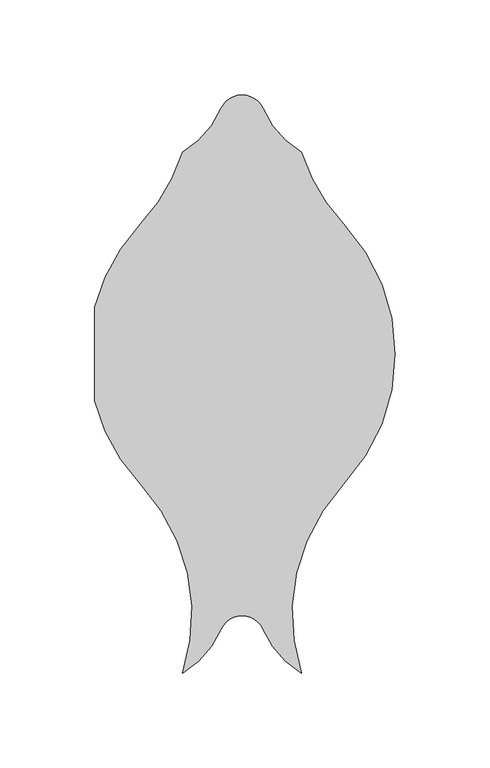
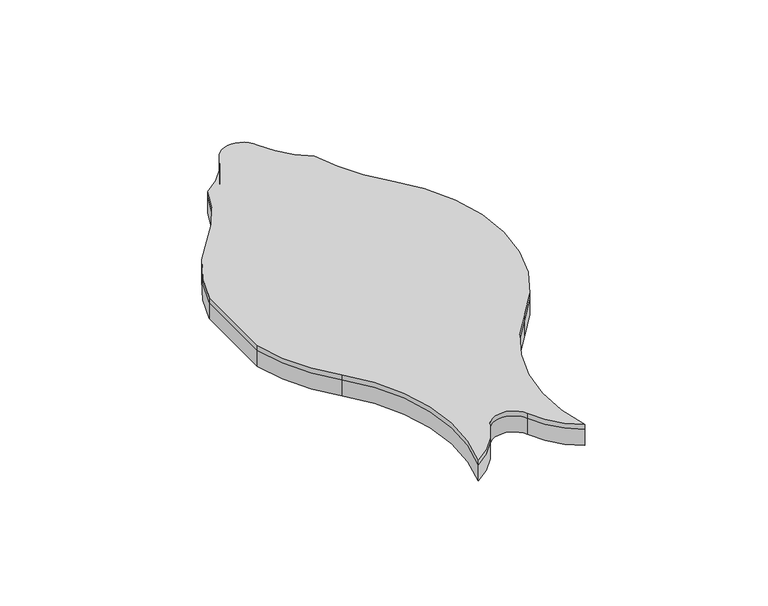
"""IFC4 building model written with IfcOpenShell, lengths in millimetres: proxy geometry, FilzFelt_Fish_Block : Fish Block."""

from ifc_helpers import new_model, si_unit, frame, origin, place, context, project, spatial, polyline, circle_curve, source, transform, mapped, element, save
from ifc_brep_helpers import plane_surface, cylinder_surface, revolved_surface, advanced_brep


def specialty_equipment_b1607f59(model_context):
    return source(origin(), model_context, "Body", "AdvancedBrep", [
        advanced_brep(
        [(53.5486457, 68.6120133, 10.0210937), (53.5486457, -68.6120133, 10.0210937), (31.2619065, -168.1141956, 10.0210937), (11.0103348, -145.0347036, 10.0210937), (-11.0103348, -145.0347036, 10.0210937), (-31.2619065, -168.1141956, 10.0210937), (-53.5486457, -68.6120133, 10.0210937), (-77.6593049, -24.5571251, 10.0210937), (-77.6593049, 24.5571251, 10.0210937), (-53.5486457, 68.6120133, 10.0210937), (-31.2619065, 106.3338576, 10.0210937), (-11.0103348, 129.4133496, 10.0210937), (11.0103348, 129.4133496, 10.0210937), (31.2619065, 106.3338576, 10.0210937), (53.5486457, 68.6120133, 12.9976563), (31.2619065, 106.3338576, 12.9976563), (11.0103348, 129.4133496, 12.9976563), (0.0, 136.5838795, 12.9976563), (-11.0103348, 129.4133496, 12.9976563), (-31.2619065, 106.3338576, 12.9976563), (-53.5486457, 68.6120133, 12.9976563), (-77.6593049, 24.5571251, 12.9976563), (-77.6593049, -24.5571251, 12.9976563), (-53.5486457, -68.6120133, 12.9976563), (-31.2619065, -168.1141956, 12.9976563), (-11.0103348, -145.0347036, 12.9976563), (11.0103348, -145.0347036, 12.9976563), (31.2619065, -168.1141956, 12.9976563), (53.5486457, -68.6120133, 12.9976563), (80.7142226, 0.0, 12.9976563)],
        [
            (0, 1, circle_curve(frame((-19.5151403, 0.0, 10.0210937), z_axis=(0.0, 0.0, -1.0), x_axis=(-1.0, 0.0, 0.0)), 100.2293629)),
            (1, 2, circle_curve(frame((126.6124317, -137.2240266, 10.0210937), z_axis=(0.0, 0.0, 1.0), x_axis=(-1.0, 0.0, 0.0)), 100.2293629)),
            (2, 3, circle_curve(frame((57.9263497, -124.2921115, 10.0210937), z_axis=(0.0, 0.0, -1.0), x_axis=(-1.0, 0.0, 0.0)), 51.2968574)),
            (3, 4, circle_curve(frame((0.0, -149.9026124, 10.0210937), z_axis=(0.0, 0.0, 1.0), x_axis=(-1.0, 0.0, 0.0)), 12.0384388)),
            (4, 5, circle_curve(frame((-57.9263497, -124.2921115, 10.0210937), z_axis=(0.0, 0.0, -1.0), x_axis=(-1.0, 0.0, 0.0)), 51.2968574)),
            (5, 6, circle_curve(frame((-126.6124317, -137.2240266, 10.0210937), z_axis=(0.0, 0.0, 1.0), x_axis=(-1.0, 0.0, 0.0)), 100.2293629)),
            (6, 7, circle_curve(frame((19.5151403, 0.0, 10.0210937), z_axis=(0.0, 0.0, -1.0), x_axis=(-1.0, 0.0, 0.0)), 100.2293629)),
            (7, 8),
            (8, 9, circle_curve(frame((19.5151403, 0.0, 10.0210937), z_axis=(0.0, 0.0, -1.0), x_axis=(-1.0, 0.0, 0.0)), 100.2293629)),
            (9, 10, circle_curve(frame((-126.6124317, 137.2240266, 10.0210937), z_axis=(0.0, 0.0, 1.0), x_axis=(-1.0, 0.0, 0.0)), 100.2293629)),
            (10, 11, circle_curve(frame((-57.9263497, 150.1559416, 10.0210937), z_axis=(0.0, 0.0, 1.0), x_axis=(-1.0, 0.0, 0.0)), 51.2968574)),
            (11, 12, circle_curve(frame((0.0, 124.5454408, 10.0210937), z_axis=(0.0, 0.0, -1.0), x_axis=(-1.0, 0.0, 0.0)), 12.0384388)),
            (12, 13, circle_curve(frame((57.9263497, 150.1559416, 10.0210937), z_axis=(0.0, 0.0, 1.0), x_axis=(-1.0, 0.0, 0.0)), 51.2968574)),
            (13, 0, circle_curve(frame((126.6124317, 137.2240266, 10.0210937), z_axis=(0.0, 0.0, 1.0), x_axis=(-1.0, 0.0, 0.0)), 100.2293629)),
            (14, 15, circle_curve(frame((126.6124317, 137.2240266, 12.9976563), z_axis=(0.0, 0.0, -1.0), x_axis=(-1.0, 0.0, 0.0)), 100.2293629)),
            (15, 16, circle_curve(frame((57.9263497, 150.1559416, 12.9976563), z_axis=(0.0, 0.0, -1.0), x_axis=(-1.0, 0.0, 0.0)), 51.2968574)),
            (16, 17, circle_curve(frame((0.0, 124.5454408, 12.9976563), z_axis=(0.0, 0.0, 1.0), x_axis=(-1.0, 0.0, 0.0)), 12.0384388)),
            (17, 18, circle_curve(frame((0.0, 124.5454408, 12.9976563), z_axis=(0.0, 0.0, 1.0), x_axis=(-1.0, 0.0, 0.0)), 12.0384388)),
            (18, 19, circle_curve(frame((-57.9263497, 150.1559416, 12.9976563), z_axis=(0.0, 0.0, -1.0), x_axis=(-1.0, 0.0, 0.0)), 51.2968574)),
            (19, 20, circle_curve(frame((-126.6124317, 137.2240266, 12.9976563), z_axis=(0.0, 0.0, -1.0), x_axis=(-1.0, 0.0, 0.0)), 100.2293629)),
            (20, 21, circle_curve(frame((19.5151403, 0.0, 12.9976563), z_axis=(0.0, 0.0, 1.0), x_axis=(-1.0, 0.0, 0.0)), 100.2293629)),
            (21, 22),
            (22, 23, circle_curve(frame((19.5151403, 0.0, 12.9976563), z_axis=(0.0, 0.0, 1.0), x_axis=(-1.0, 0.0, 0.0)), 100.2293629)),
            (23, 24, circle_curve(frame((-126.6124317, -137.2240266, 12.9976563), z_axis=(0.0, 0.0, -1.0), x_axis=(-1.0, 0.0, 0.0)), 100.2293629)),
            (24, 25, circle_curve(frame((-57.9263497, -124.2921115, 12.9976563), z_axis=(0.0, 0.0, 1.0), x_axis=(-1.0, 0.0, 0.0)), 51.2968574)),
            (25, 26, circle_curve(frame((0.0, -149.9026124, 12.9976563), z_axis=(0.0, 0.0, -1.0), x_axis=(-1.0, 0.0, 0.0)), 12.0384388)),
            (26, 27, circle_curve(frame((57.9263497, -124.2921115, 12.9976563), z_axis=(0.0, 0.0, 1.0), x_axis=(-1.0, 0.0, 0.0)), 51.2968574)),
            (27, 28, circle_curve(frame((126.6124317, -137.2240266, 12.9976563), z_axis=(0.0, 0.0, -1.0), x_axis=(-1.0, 0.0, 0.0)), 100.2293629)),
            (28, 29, circle_curve(frame((-19.5151403, 0.0, 12.9976563), z_axis=(0.0, 0.0, 1.0), x_axis=(-1.0, 0.0, 0.0)), 100.2293629)),
            (29, 14, circle_curve(frame((-19.5151403, 0.0, 12.9976563), z_axis=(0.0, 0.0, 1.0), x_axis=(-1.0, 0.0, 0.0)), 100.2293629)),
            (0, 14),
            (28, 1),
            (27, 2),
            (26, 3),
            (25, 4),
            (24, 5),
            (23, 6),
            (22, 7),
            (20, 9),
            (8, 21),
            (19, 10),
            (18, 11),
            (16, 12),
            (15, 13),
        ],
        [
            plane_surface(frame((0.0, 0.0, 10.0210937), z_axis=(0.0, 0.0, -1.0), x_axis=(0.0, -1.0, 0.0))),
            plane_surface(frame((0.0, 0.0, 12.9976563), z_axis=(0.0, 0.0, 1.0), x_axis=(0.0, -1.0, 0.0))),
            cylinder_surface(frame((-19.5151403, 0.0, 10.0210937), z_axis=(0.0, 0.0, -1.0), x_axis=(-1.0, 0.0, 0.0)), 100.2293629),
            revolved_surface(polyline([(26.383068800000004, -137.2240266, 12.9976563), (26.383068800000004, -137.2240266, 10.0210937)]), (126.6124317, -137.2240266, 10.0210937), (0.0, 0.0, 1.0)),
            cylinder_surface(frame((57.9263497, -124.2921115, 10.0210937), z_axis=(0.0, 0.0, -1.0), x_axis=(-1.0, 0.0, 0.0)), 51.2968574),
            revolved_surface(polyline([(-12.0384388, -149.9026124, 12.9976563), (-12.0384388, -149.9026124, 10.0210937)]), (0.0, -149.9026124, 10.0210937), (0.0, 0.0, 1.0)),
            cylinder_surface(frame((-57.9263497, -124.2921115, 10.0210937), z_axis=(0.0, 0.0, -1.0), x_axis=(-1.0, 0.0, 0.0)), 51.2968574),
            revolved_surface(polyline([(-226.84179460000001, -137.2240266, 12.9976563), (-226.84179460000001, -137.2240266, 10.0210937)]), (-126.6124317, -137.2240266, 10.0210937), (0.0, 0.0, 1.0)),
            cylinder_surface(frame((19.5151403, 0.0, 10.0210937), z_axis=(0.0, 0.0, -1.0), x_axis=(-1.0, 0.0, 0.0)), 100.2293629),
            revolved_surface(polyline([(-226.84179460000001, 137.2240266, 12.9976563), (-226.84179460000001, 137.2240266, 10.0210937)]), (-126.6124317, 137.2240266, 10.0210937), (0.0, 0.0, 1.0)),
            revolved_surface(polyline([(-109.2232071, 150.1559416, 12.9976563), (-109.2232071, 150.1559416, 10.0210937)]), (-57.9263497, 150.1559416, 10.0210937), (0.0, 0.0, 1.0)),
            cylinder_surface(frame((0.0, 124.5454408, 10.0210937), z_axis=(0.0, 0.0, -1.0), x_axis=(-1.0, 0.0, 0.0)), 12.0384388),
            revolved_surface(polyline([(6.629492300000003, 150.1559416, 12.9976563), (6.629492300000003, 150.1559416, 10.0210937)]), (57.9263497, 150.1559416, 10.0210937), (0.0, 0.0, 1.0)),
            revolved_surface(polyline([(26.383068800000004, 137.2240266, 12.9976563), (26.383068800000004, 137.2240266, 10.0210937)]), (126.6124317, 137.2240266, 10.0210937), (0.0, 0.0, 1.0)),
            plane_surface(frame((-77.6593049, 168.3338795, 12.9976562), z_axis=(-1.0, 0.0, 0.0), x_axis=(0.0, -1.0, 0.0))),
        ],
        [
            (0, [[1, 2, 3, 4, 5, 6, 7, 8, 9, 10, 11, 12, 13, 14]]),
            (1, [[15, 16, 17, 18, 19, 20, 21, 22, 23, 24, 25, 26, 27, 28, 29, 30]]),
            (2, [[-1, 31, -30, -29, 32]]),
            (3, [[-2, -32, -28, 33]]),
            (4, [[-3, -33, -27, 34]]),
            (5, [[-4, -34, -26, 35]]),
            (6, [[-5, -35, -25, 36]]),
            (7, [[-6, -36, -24, 37]]),
            (8, [[-37, -23, 38, -7]]),
            (8, [[39, -9, 40, -21]]),
            (9, [[-10, -39, -20, 41]]),
            (10, [[-11, -41, -19, 42]]),
            (11, [[-12, -42, -18, -17, 43]]),
            (12, [[-13, -43, -16, 44]]),
            (13, [[-14, -44, -15, -31]]),
            (14, [[-8, -38, -22, -40]]),
        ],
    ),
        advanced_brep(
        [(31.2619065, -168.1141956, 0.0), (11.0103348, -145.0347036, 0.0), (-11.0103348, -145.0347036, 0.0), (-31.2619065, -168.1141956, 0.0), (-53.5486457, -68.6120133, 0.0), (-77.6593049, -24.5571251, 0.0), (-77.6593049, 24.5571251, 0.0), (-53.5486457, 68.6120133, 0.0), (-31.2619065, 106.3338576, 0.0), (-11.0103348, 129.4133496, 0.0), (0.0, 136.5838795, 0.0), (11.0103348, 129.4133496, 0.0), (31.2619065, 106.3338576, 0.0), (53.5486457, 68.6120133, 0.0), (80.7142226, 0.0, 0.0), (53.5486457, -68.6120133, 0.0), (31.2619065, -168.1141956, 10.0210937), (53.5486457, -68.6120133, 10.0210937), (53.5486457, 68.6120133, 10.0210937), (31.2619065, 106.3338576, 10.0210937), (11.0103348, 129.4133496, 10.0210937), (-11.0103348, 129.4133496, 10.0210937), (-31.2619065, 106.3338576, 10.0210937), (-53.5486457, 68.6120133, 10.0210937), (-77.6593049, 24.5571251, 10.0210937), (-77.6593049, -24.5571251, 10.0210937), (-53.5486457, -68.6120133, 10.0210937), (-31.2619065, -168.1141956, 10.0210937), (-11.0103348, -145.0347036, 10.0210937), (11.0103348, -145.0347036, 10.0210937)],
        [
            (0, 1, circle_curve(frame((57.9263497, -124.2921115, 0.0), z_axis=(0.0, 0.0, -1.0), x_axis=(-1.0, 0.0, 0.0)), 51.2968574)),
            (1, 2, circle_curve(frame((0.0, -149.9026124, 0.0), z_axis=(0.0, 0.0, 1.0), x_axis=(-1.0, 0.0, 0.0)), 12.0384388)),
            (2, 3, circle_curve(frame((-57.9263497, -124.2921115, 0.0), z_axis=(0.0, 0.0, -1.0), x_axis=(-1.0, 0.0, 0.0)), 51.2968574)),
            (3, 4, circle_curve(frame((-126.6124317, -137.2240266, 0.0), z_axis=(0.0, 0.0, 1.0), x_axis=(-1.0, 0.0, 0.0)), 100.2293629)),
            (4, 5, circle_curve(frame((19.5151403, 0.0, 0.0), z_axis=(0.0, 0.0, -1.0), x_axis=(-1.0, 0.0, 0.0)), 100.2293629)),
            (5, 6),
            (6, 7, circle_curve(frame((19.5151403, 0.0, 0.0), z_axis=(0.0, 0.0, -1.0), x_axis=(-1.0, 0.0, 0.0)), 100.2293629)),
            (7, 8, circle_curve(frame((-126.6124317, 137.2240266, 0.0), z_axis=(0.0, 0.0, 1.0), x_axis=(-1.0, 0.0, 0.0)), 100.2293629)),
            (8, 9, circle_curve(frame((-57.9263497, 150.1559416, 0.0), z_axis=(0.0, 0.0, 1.0), x_axis=(-1.0, 0.0, 0.0)), 51.2968574)),
            (9, 10, circle_curve(frame((0.0, 124.5454408, 0.0), z_axis=(0.0, 0.0, -1.0), x_axis=(-1.0, 0.0, 0.0)), 12.0384388)),
            (10, 11, circle_curve(frame((0.0, 124.5454408, 0.0), z_axis=(0.0, 0.0, -1.0), x_axis=(-1.0, 0.0, 0.0)), 12.0384388)),
            (11, 12, circle_curve(frame((57.9263497, 150.1559416, 0.0), z_axis=(0.0, 0.0, 1.0), x_axis=(-1.0, 0.0, 0.0)), 51.2968574)),
            (12, 13, circle_curve(frame((126.6124317, 137.2240266, 0.0), z_axis=(0.0, 0.0, 1.0), x_axis=(-1.0, 0.0, 0.0)), 100.2293629)),
            (13, 14, circle_curve(frame((-19.5151403, 0.0, 0.0), z_axis=(0.0, 0.0, -1.0), x_axis=(-1.0, 0.0, 0.0)), 100.2293629)),
            (14, 15, circle_curve(frame((-19.5151403, 0.0, 0.0), z_axis=(0.0, 0.0, -1.0), x_axis=(-1.0, 0.0, 0.0)), 100.2293629)),
            (15, 0, circle_curve(frame((126.6124317, -137.2240266, 0.0), z_axis=(0.0, 0.0, 1.0), x_axis=(-1.0, 0.0, 0.0)), 100.2293629)),
            (16, 17, circle_curve(frame((126.6124317, -137.2240266, 10.0210937), z_axis=(0.0, 0.0, -1.0), x_axis=(-1.0, 0.0, 0.0)), 100.2293629)),
            (17, 18, circle_curve(frame((-19.5151403, 0.0, 10.0210937), z_axis=(0.0, 0.0, 1.0), x_axis=(-1.0, 0.0, 0.0)), 100.2293629)),
            (18, 19, circle_curve(frame((126.6124317, 137.2240266, 10.0210937), z_axis=(0.0, 0.0, -1.0), x_axis=(-1.0, 0.0, 0.0)), 100.2293629)),
            (19, 20, circle_curve(frame((57.9263497, 150.1559416, 10.0210937), z_axis=(0.0, 0.0, -1.0), x_axis=(-1.0, 0.0, 0.0)), 51.2968574)),
            (20, 21, circle_curve(frame((0.0, 124.5454408, 10.0210937), z_axis=(0.0, 0.0, 1.0), x_axis=(-1.0, 0.0, 0.0)), 12.0384388)),
            (21, 22, circle_curve(frame((-57.9263497, 150.1559416, 10.0210937), z_axis=(0.0, 0.0, -1.0), x_axis=(-1.0, 0.0, 0.0)), 51.2968574)),
            (22, 23, circle_curve(frame((-126.6124317, 137.2240266, 10.0210937), z_axis=(0.0, 0.0, -1.0), x_axis=(-1.0, 0.0, 0.0)), 100.2293629)),
            (23, 24, circle_curve(frame((19.5151403, 0.0, 10.0210937), z_axis=(0.0, 0.0, 1.0), x_axis=(-1.0, 0.0, 0.0)), 100.2293629)),
            (24, 25),
            (25, 26, circle_curve(frame((19.5151403, 0.0, 10.0210937), z_axis=(0.0, 0.0, 1.0), x_axis=(-1.0, 0.0, 0.0)), 100.2293629)),
            (26, 27, circle_curve(frame((-126.6124317, -137.2240266, 10.0210937), z_axis=(0.0, 0.0, -1.0), x_axis=(-1.0, 0.0, 0.0)), 100.2293629)),
            (27, 28, circle_curve(frame((-57.9263497, -124.2921115, 10.0210937), z_axis=(0.0, 0.0, 1.0), x_axis=(-1.0, 0.0, 0.0)), 51.2968574)),
            (28, 29, circle_curve(frame((0.0, -149.9026124, 10.0210937), z_axis=(0.0, 0.0, -1.0), x_axis=(-1.0, 0.0, 0.0)), 12.0384388)),
            (29, 16, circle_curve(frame((57.9263497, -124.2921115, 10.0210937), z_axis=(0.0, 0.0, 1.0), x_axis=(-1.0, 0.0, 0.0)), 51.2968574)),
            (0, 16),
            (29, 1),
            (28, 2),
            (27, 3),
            (26, 4),
            (25, 5),
            (23, 7),
            (6, 24),
            (22, 8),
            (21, 9),
            (20, 11),
            (19, 12),
            (18, 13),
            (17, 15),
        ],
        [
            plane_surface(frame((0.0, 0.0, 0.0), z_axis=(0.0, 0.0, -1.0), x_axis=(0.0, -1.0, 0.0))),
            plane_surface(frame((0.0, 0.0, 10.0210937), z_axis=(0.0, 0.0, 1.0), x_axis=(0.0, -1.0, 0.0))),
            cylinder_surface(frame((57.9263497, -124.2921115, 0.0), z_axis=(0.0, 0.0, -1.0), x_axis=(-1.0, 0.0, 0.0)), 51.2968574),
            revolved_surface(polyline([(-12.0384388, -149.9026124, 10.0210937), (-12.0384388, -149.9026124, 0.0)]), (0.0, -149.9026124, 0.0), (0.0, 0.0, 1.0)),
            cylinder_surface(frame((-57.9263497, -124.2921115, 0.0), z_axis=(0.0, 0.0, -1.0), x_axis=(-1.0, 0.0, 0.0)), 51.2968574),
            revolved_surface(polyline([(-226.84179460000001, -137.2240266, 10.0210937), (-226.84179460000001, -137.2240266, 0.0)]), (-126.6124317, -137.2240266, 0.0), (0.0, 0.0, 1.0)),
            cylinder_surface(frame((19.5151403, 0.0, 0.0), z_axis=(0.0, 0.0, -1.0), x_axis=(-1.0, 0.0, 0.0)), 100.2293629),
            revolved_surface(polyline([(-226.84179460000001, 137.2240266, 10.0210937), (-226.84179460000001, 137.2240266, 0.0)]), (-126.6124317, 137.2240266, 0.0), (0.0, 0.0, 1.0)),
            revolved_surface(polyline([(-109.2232071, 150.1559416, 10.0210937), (-109.2232071, 150.1559416, 0.0)]), (-57.9263497, 150.1559416, 0.0), (0.0, 0.0, 1.0)),
            cylinder_surface(frame((0.0, 124.5454408, 0.0), z_axis=(0.0, 0.0, -1.0), x_axis=(-1.0, 0.0, 0.0)), 12.0384388),
            revolved_surface(polyline([(6.629492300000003, 150.1559416, 10.0210937), (6.629492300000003, 150.1559416, 0.0)]), (57.9263497, 150.1559416, 0.0), (0.0, 0.0, 1.0)),
            revolved_surface(polyline([(26.383068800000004, 137.2240266, 10.0210937), (26.383068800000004, 137.2240266, 0.0)]), (126.6124317, 137.2240266, 0.0), (0.0, 0.0, 1.0)),
            cylinder_surface(frame((-19.5151403, 0.0, 0.0), z_axis=(0.0, 0.0, -1.0), x_axis=(-1.0, 0.0, 0.0)), 100.2293629),
            revolved_surface(polyline([(26.383068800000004, -137.2240266, 10.0210937), (26.383068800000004, -137.2240266, 0.0)]), (126.6124317, -137.2240266, 0.0), (0.0, 0.0, 1.0)),
            plane_surface(frame((-77.6593049, 168.3338795, 12.9976562), z_axis=(-1.0, 0.0, 0.0), x_axis=(0.0, -1.0, 0.0))),
        ],
        [
            (0, [[1, 2, 3, 4, 5, 6, 7, 8, 9, 10, 11, 12, 13, 14, 15, 16]]),
            (1, [[17, 18, 19, 20, 21, 22, 23, 24, 25, 26, 27, 28, 29, 30]]),
            (2, [[-1, 31, -30, 32]]),
            (3, [[-2, -32, -29, 33]]),
            (4, [[-3, -33, -28, 34]]),
            (5, [[-4, -34, -27, 35]]),
            (6, [[-35, -26, 36, -5]]),
            (6, [[37, -7, 38, -24]]),
            (7, [[-8, -37, -23, 39]]),
            (8, [[-9, -39, -22, 40]]),
            (9, [[-21, 41, -11, -10, -40]]),
            (10, [[-12, -41, -20, 42]]),
            (11, [[-13, -42, -19, 43]]),
            (12, [[-18, 44, -15, -14, -43]]),
            (13, [[-16, -44, -17, -31]]),
            (14, [[-6, -36, -25, -38]]),
        ],
    ),
    ])


if __name__ == "__main__":
    model = new_model("IFC4")
    model_context = context("Model", 3, world=origin())
    ifc_project = project(units=[si_unit("LENGTHUNIT", "METRE", prefix="MILLI")], contexts=[model_context])
    site = spatial("IfcSite", under=ifc_project)
    building = spatial("IfcBuilding", under=site)
    placement = place(None, origin())
    specialty_equipment_shape = specialty_equipment_b1607f59(model_context)
    element("IfcBuildingElementProxy", 1, Name="FilzFelt_Fish_Block : Fish Block", ObjectType="FilzFelt_Fish_Block : Fish Block", at=placement, inside=building, context=model_context, shape_type="MappedRepresentation", body=[
        mapped(specialty_equipment_shape, transform((0.0, 0.0, 0.0), x_axis=(1.0, 0.0, 0.0), y_axis=(0.0, 1.0, 0.0), z_axis=(0.0, 0.0, 1.0))),
    ])
    save(model, "model.ifc")
